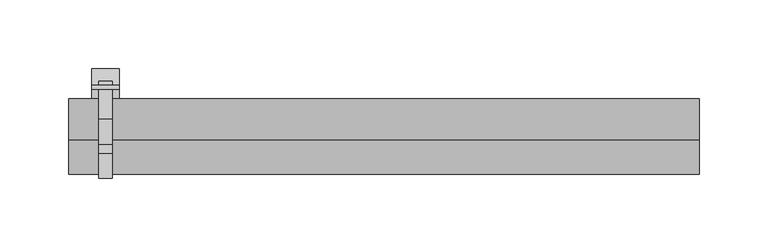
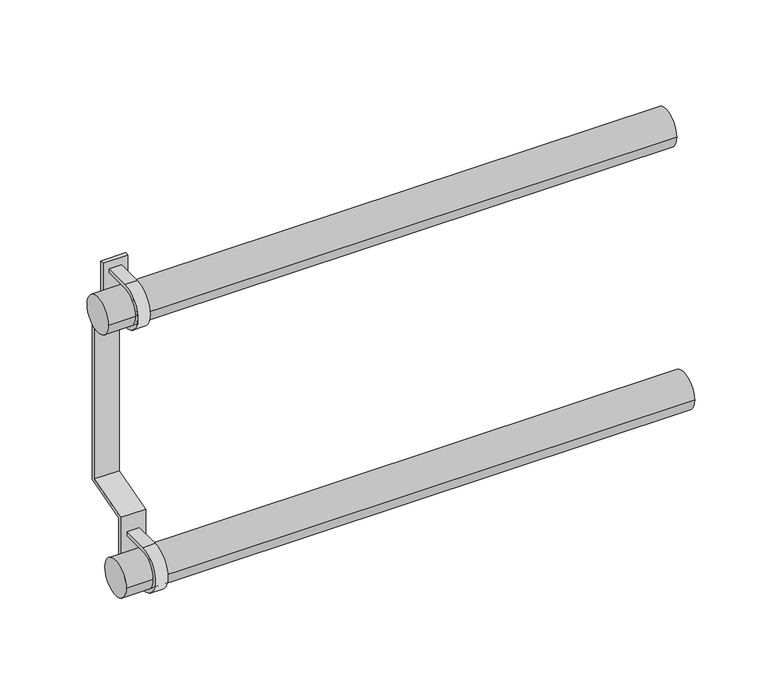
"""IFC4 building model written with IfcOpenShell, lengths in millimetres: valve geometry, PL CZ_Manifold_FT-VA : 08 circuits."""

from ifc_helpers import new_model, si_unit, point, frame, frame_2d, origin, origin_2d, place, context, project, spatial, polyline, circle_curve, trimmed, segment, composite_curve, outline, extrude, source, transform, mapped, element, save


def valve_fde89ab8(model_context):
    return source(origin(), model_context, "Body", "SweptSolid", [
        extrude(outline(composite_curve([segment(trimmed(circle_curve(origin_2d(), 15.0), [point((0.0, 15.0))], [point((0.0, -15.0))], True, "CARTESIAN"), True, "CONTINUOUS"), segment(polyline([(0.0, -15.0), (27.6751284, -15.0), (27.6751284, -18.0), (0.0, -18.0)]), True, "CONTINUOUS"), segment(trimmed(circle_curve(origin_2d(), 18.0), [point((0.0, -18.0))], [point((0.0, 18.0))], False, "CARTESIAN"), True, "CONTINUOUS"), segment(polyline([(0.0, 18.0), (27.6751284, 18.0), (27.6751284, 15.0), (0.0, 15.0)]), True, "CONTINUOUS")], self_intersect=False)), frame((5.0, 0.0, 0.0), z_axis=(1.0, 0.0, 0.0), x_axis=(0.0, 1.0, 0.0)), (0.0, 0.0, 1.0), 10.0),
        extrude(outline(composite_curve([segment(trimmed(circle_curve(frame_2d((25.0, 210.0)), 15.0), [point((25.0, 225.0))], [point((25.0, 195.0))], True, "CARTESIAN"), True, "CONTINUOUS"), segment(polyline([(25.0, 195.0), (52.6751284, 195.0), (52.6751284, 192.0), (25.0, 192.0)]), True, "CONTINUOUS"), segment(trimmed(circle_curve(frame_2d((25.0, 210.0)), 18.0), [point((25.0, 192.0))], [point((25.0, 228.0))], False, "CARTESIAN"), True, "CONTINUOUS"), segment(polyline([(25.0, 228.0), (52.6751284, 228.0), (52.6751284, 225.0), (25.0, 225.0)]), True, "CONTINUOUS")], self_intersect=False)), frame((5.0, 0.0, 0.0), z_axis=(1.0, 0.0, 0.0), x_axis=(0.0, 1.0, 0.0)), (0.0, 0.0, 1.0), 10.0),
        extrude(outline(polyline([(62.0, 182.8840762), (62.0, 40.6095793), (25.0, 30.0), (25.0, -30.0), (22.0, -30.0), (22.0, 32.2606622), (59.0, 42.8702414), (59.0, 180.3667773), (47.0, 182.4827011), (47.0, 235.0), (50.0, 235.0), (50.0, 185.0), (62.0, 182.8840762)])), frame((0.0, 0.0, 0.0), z_axis=(1.0, 0.0, 0.0), x_axis=(0.0, 1.0, 0.0)), (0.0, 0.0, 1.0), 20.0),
        extrude(outline(composite_curve([segment(trimmed(circle_curve(origin_2d(), 15.0), [point((15.0, 0.0))], [point((-15.0, 0.0))], False, "CARTESIAN"), True, "CONTINUOUS"), segment(trimmed(circle_curve(origin_2d(), 15.0), [point((-15.0, 0.0))], [point((15.0, 0.0))], False, "CARTESIAN"), True, "CONTINUOUS")], self_intersect=False)), frame((-17.0, 0.0, 0.0), z_axis=(1.0, 0.0, 0.0), x_axis=(0.0, 1.0, 0.0)), (0.0, 0.0, 1.0), 460.0),
        extrude(outline(composite_curve([segment(trimmed(circle_curve(frame_2d((25.0, 210.0)), 15.0), [point((40.0, 210.0))], [point((10.0, 210.0))], False, "CARTESIAN"), True, "CONTINUOUS"), segment(trimmed(circle_curve(frame_2d((25.0, 210.0)), 15.0), [point((10.0, 210.0))], [point((40.0, 210.0))], False, "CARTESIAN"), True, "CONTINUOUS")], self_intersect=False)), frame((-17.0, 0.0, 0.0), z_axis=(1.0, 0.0, 0.0), x_axis=(0.0, 1.0, 0.0)), (0.0, 0.0, 1.0), 460.0),
    ])


if __name__ == "__main__":
    model = new_model("IFC4")
    model_context = context("Model", 3, world=origin())
    ifc_project = project(units=[si_unit("LENGTHUNIT", "METRE", prefix="MILLI")], contexts=[model_context])
    site = spatial("IfcSite", under=ifc_project)
    building = spatial("IfcBuilding", under=site)
    placement = place(None, origin())
    valve_shape = valve_fde89ab8(model_context)
    element("IfcValve", 1, ObjectType="PL CZ_Manifold_FT-VA : 08 circuits", at=placement, inside=building, context=model_context, shape_type="MappedRepresentation", body=[
        mapped(valve_shape, transform((0.0, 0.0, 0.0), x_axis=(1.0, 0.0, 0.0), y_axis=(0.0, 1.0, 0.0), z_axis=(0.0, 0.0, 1.0))),
    ])
    save(model, "model.ifc")
